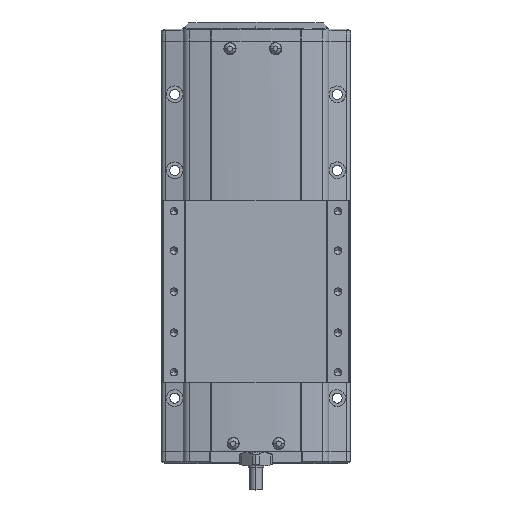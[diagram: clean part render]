
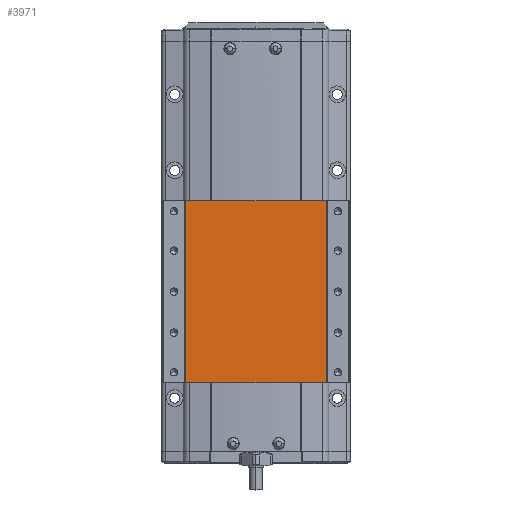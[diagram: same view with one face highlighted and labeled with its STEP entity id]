
A CAD part, top view. The second image highlights one B-rep face of the part: STEP entity #3971.
In plain terms, the highlighted planar face has unit normal (0, 0, 1).
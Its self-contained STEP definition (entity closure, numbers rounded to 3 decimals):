
#3971=ADVANCED_FACE('',(#8675),#8676,.F.);
#8675=FACE_OUTER_BOUND('',#14921,.T.);
#8676=PLANE('',#14922);
#14921=EDGE_LOOP('',(#27327,#27328,#27329,#27330));
#14922=AXIS2_PLACEMENT_3D('',#27331,#27332,#27333);
#27327=ORIENTED_EDGE('',*,*,#37163,.F.);
#27328=ORIENTED_EDGE('',*,*,#38688,.F.);
#27329=ORIENTED_EDGE('',*,*,#38989,.F.);
#27330=ORIENTED_EDGE('',*,*,#37821,.T.);
#27331=CARTESIAN_POINT('',(-300.,42.222,36.5));
#27332=DIRECTION('',(0.,0.,-1.0));
#27333=DIRECTION('',(-1.0,0.,0.));
#37163=EDGE_CURVE('',#45578,#45580,#45581,.T.);
#37821=EDGE_CURVE('',#46564,#45580,#46565,.T.);
#38688=EDGE_CURVE('',#47789,#45578,#47791,.T.);
#38989=EDGE_CURVE('',#46564,#47789,#48175,.T.);
#45578=VERTEX_POINT('',#57500);
#45580=VERTEX_POINT('',#57502);
#45581=LINE('',#57503,#57504);
#46564=VERTEX_POINT('',#58913);
#46565=LINE('',#58914,#58915);
#47789=VERTEX_POINT('',#60863);
#47791=LINE('',#60865,#60866);
#48175=LINE('',#61458,#61459);
#57500=CARTESIAN_POINT('',(-346.376,162.222,36.5));
#57502=CARTESIAN_POINT('',(-253.624,162.222,36.5));
#57503=CARTESIAN_POINT('',(-253.624,162.222,36.5));
#57504=VECTOR('',#67775,10.0);
#58913=CARTESIAN_POINT('',(-253.624,42.222,36.5));
#58914=CARTESIAN_POINT('',(-253.624,42.222,36.5));
#58915=VECTOR('',#68559,10.0);
#60863=CARTESIAN_POINT('',(-346.376,42.222,36.5));
#60865=CARTESIAN_POINT('',(-346.376,42.222,36.5));
#60866=VECTOR('',#69524,10.0);
#61458=CARTESIAN_POINT('',(-253.624,42.222,36.5));
#61459=VECTOR('',#69824,10.0);
#67775=DIRECTION('',(1.0,0.,0.));
#68559=DIRECTION('',(0.,1.0,0.));
#69524=DIRECTION('',(0.,1.0,0.));
#69824=DIRECTION('',(-1.0,0.,0.));
